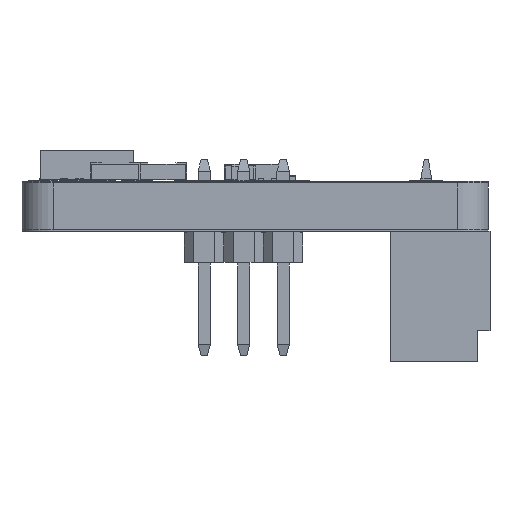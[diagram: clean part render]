
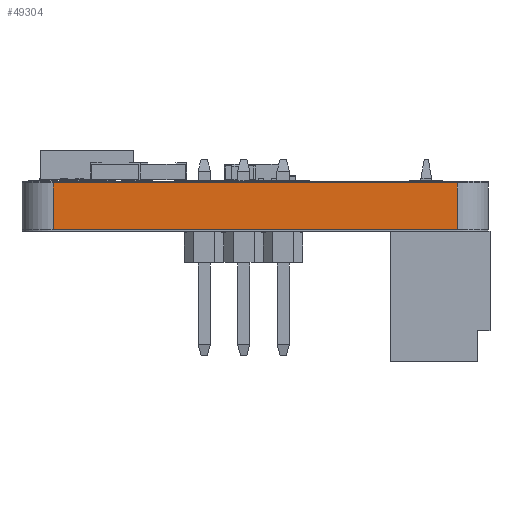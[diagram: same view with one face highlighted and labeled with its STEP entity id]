
A CAD part, left-side view. The second image highlights one B-rep face of the part: STEP entity #49304.
In plain terms, the highlighted planar face has unit normal (-1, 0, 0).
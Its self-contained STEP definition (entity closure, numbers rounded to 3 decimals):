
#1340=PLANE('',#52761);
#3602=FACE_OUTER_BOUND('',#6444,.T.);
#6444=EDGE_LOOP('',(#34638,#34639,#34640,#34641));
#9759=LINE('',#71145,#15646);
#9772=LINE('',#71184,#15659);
#9773=LINE('',#71186,#15660);
#9774=LINE('',#71187,#15661);
#15646=VECTOR('',#57024,10.);
#15659=VECTOR('',#57063,10.);
#15660=VECTOR('',#57066,10.);
#15661=VECTOR('',#57067,10.);
#22755=VERTEX_POINT('',#71142);
#22756=VERTEX_POINT('',#71144);
#22768=VERTEX_POINT('',#71180);
#22769=VERTEX_POINT('',#71182);
#27483=EDGE_CURVE('',#22755,#22756,#9759,.T.);
#27503=EDGE_CURVE('',#22768,#22769,#9772,.T.);
#27504=EDGE_CURVE('',#22755,#22768,#9773,.T.);
#27505=EDGE_CURVE('',#22756,#22769,#9774,.T.);
#34638=ORIENTED_EDGE('',*,*,#27504,.T.);
#34639=ORIENTED_EDGE('',*,*,#27503,.T.);
#34640=ORIENTED_EDGE('',*,*,#27505,.F.);
#34641=ORIENTED_EDGE('',*,*,#27483,.F.);
#49304=ADVANCED_FACE('',(#3602),#1340,.T.);
#52761=AXIS2_PLACEMENT_3D('',#71185,#57064,#57065);
#57024=DIRECTION('',(0.,0.,1.));
#57063=DIRECTION('',(0.,0.,1.));
#57064=DIRECTION('center_axis',(-1.,0.,0.));
#57065=DIRECTION('ref_axis',(0.,-1.,0.));
#57066=DIRECTION('',(0.,-1.,0.));
#57067=DIRECTION('',(0.,-1.,0.));
#71142=CARTESIAN_POINT('',(0.,14.,0.));
#71144=CARTESIAN_POINT('',(0.,14.,1.5));
#71145=CARTESIAN_POINT('',(0.,14.,0.));
#71180=CARTESIAN_POINT('',(0.,1.,0.));
#71182=CARTESIAN_POINT('',(0.,1.,1.5));
#71184=CARTESIAN_POINT('',(0.,1.,0.));
#71185=CARTESIAN_POINT('Origin',(0.,14.,
0.));
#71186=CARTESIAN_POINT('',(0.,14.,0.));
#71187=CARTESIAN_POINT('',(0.,14.,1.5));
